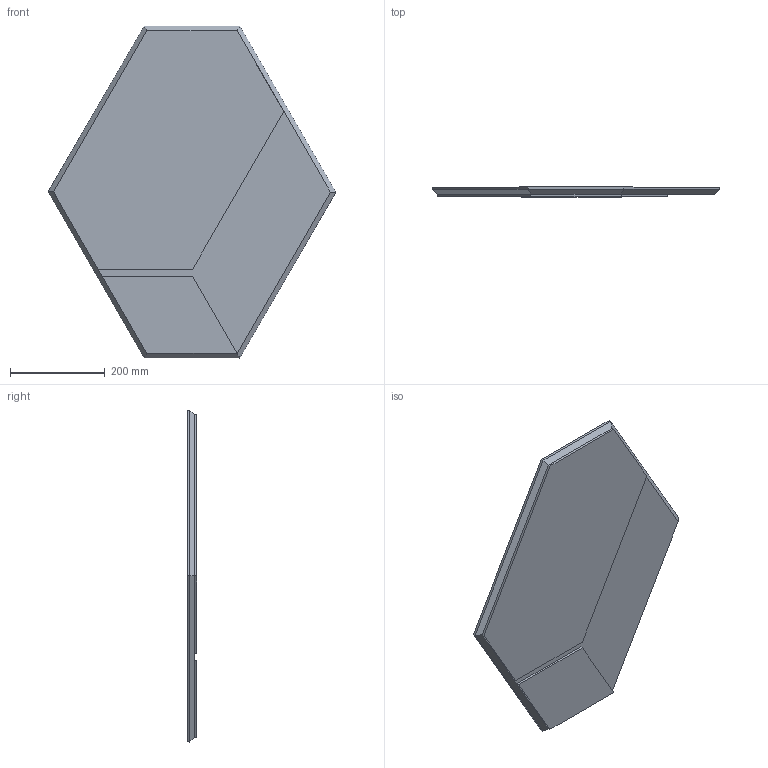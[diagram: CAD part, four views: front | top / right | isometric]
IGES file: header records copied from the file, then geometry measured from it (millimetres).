
Start section: SolidWorks IGES file using analytic representation for surfaces
Global section: file name: Y:\eforma\TECNICO\SOLIDWORKS\E-FORMA\4-SPECCHI\GEO\02 parts\GEO03_GeoC_70x60,5.IGS; native system: SolidWorks 2022; preprocessor: SolidWorks 2022; author: eforma.tech; date: 240806.092157; units: millimetre
Bounding box: 606.5 x 20 x 700.01 mm (x, y, z)
Volume: 5064663.3 mm3; surface area: 994116.8 mm2
Topology: 5 solids, 5 shells, 128 faces, 328 edges, 210 vertices
Faces by surface type: plane 76, revolution 52
